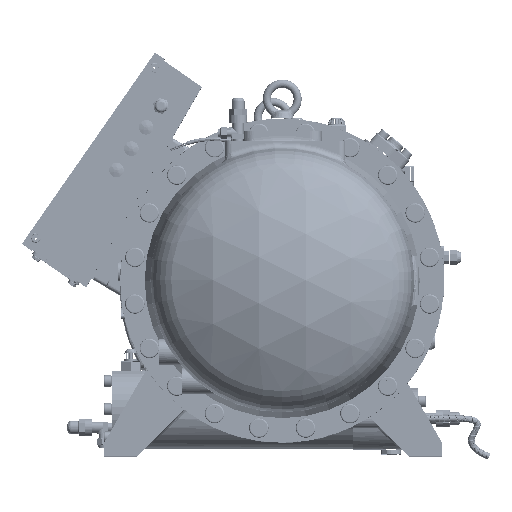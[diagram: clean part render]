
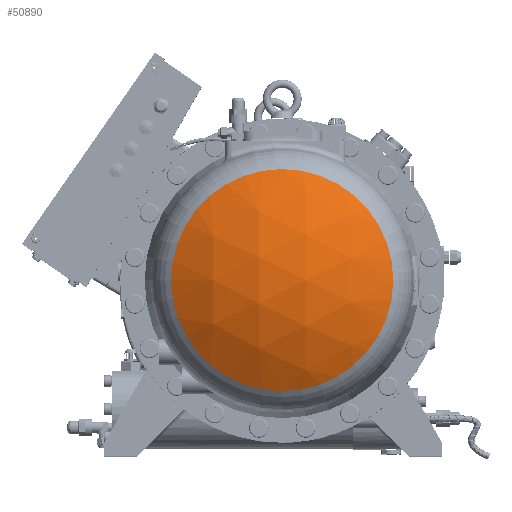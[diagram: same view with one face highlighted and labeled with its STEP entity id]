
A CAD part, top view. The second image highlights one B-rep face of the part: STEP entity #50890.
In plain terms, the highlighted spherical face has radius 319 mm.
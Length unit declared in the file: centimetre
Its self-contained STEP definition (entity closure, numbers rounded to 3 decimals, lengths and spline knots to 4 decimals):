
#1778=SPHERICAL_SURFACE('',#53821,31.9);
#12733=FACE_OUTER_BOUND('',#15069,.T.);
#15069=EDGE_LOOP('',(#38268));
#19366=CIRCLE('',#53819,17.1239);
#22577=VERTEX_POINT('',#75607);
#29493=EDGE_CURVE('',#22577,#22577,#19366,.T.);
#38268=ORIENTED_EDGE('',*,*,#29493,.F.);
#50890=ADVANCED_FACE('',(#12733),#1778,.T.);
#53819=AXIS2_PLACEMENT_3D('',#75608,#59342,#59343);
#53821=AXIS2_PLACEMENT_3D('',#75665,#59346,#59347);
#59342=DIRECTION('center_axis',(0.,0.,
-1.));
#59343=DIRECTION('ref_axis',(-1.,0.,0.));
#59346=DIRECTION('center_axis',(1.,0.,0.));
#59347=DIRECTION('ref_axis',(0.,1.,0.));
#75607=CARTESIAN_POINT('',(1.4,-15.7239,47.6643));
#75608=CARTESIAN_POINT('Origin',(1.4,1.4,47.6643));
#75665=CARTESIAN_POINT('Origin',(1.4,1.4,20.75));
